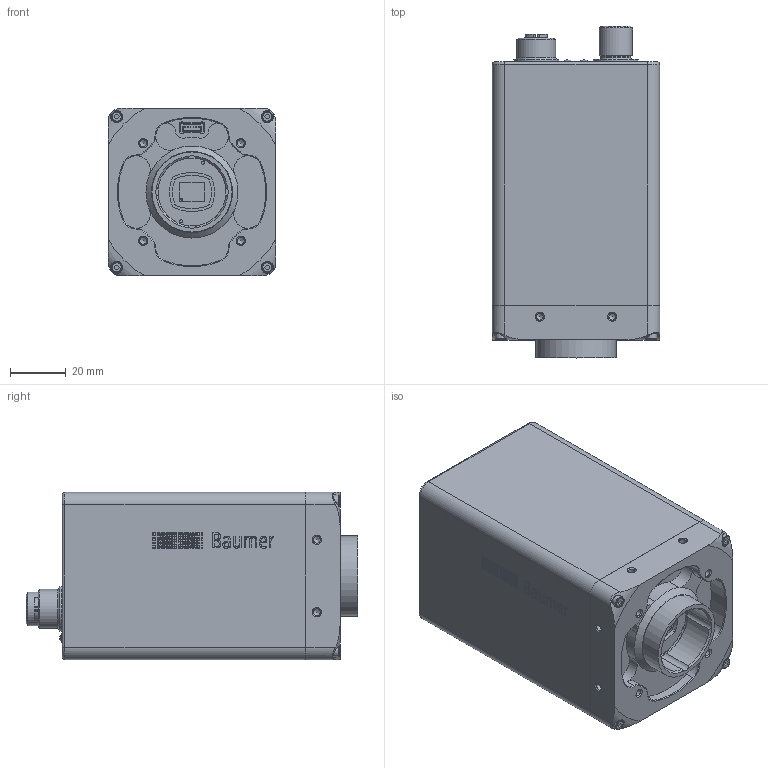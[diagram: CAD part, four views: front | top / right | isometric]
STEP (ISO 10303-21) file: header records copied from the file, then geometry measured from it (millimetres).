
FILE_DESCRIPTION( ( '11700830' ), '1' );
FILE_NAME( '11700830_VLXT-06M.I.JP.stp', '201123', ( 'uge' ), ( 'Unknown' ), 'PSStep 19.0.9', 'Unknown', ' ' );
FILE_SCHEMA( ( 'AUTOMOTIVE_DESIGN { 1 0 10303 214 1 1 1 1 }' ) );
Length unit declared in the file: millimetre
Products named in the file (1): 11192507
Bounding box: 60 x 118.97 x 60 mm (x, y, z)
Volume: 347312.7 mm3; surface area: 39575.2 mm2
Topology: 1 solids, 12 shells, 1557 faces, 3473 edges, 2278 vertices
Faces by surface type: plane 684, cylinder 649, torus 74, cone 71, extrusion 56, sphere 16, bspline 7
Full cylindrical faces by diameter (mm): 0.306 x20, 0.385 x20, 0.464 x20, 0.542 x20, 0.621 x20, 0.63 x12, 0.699 x20, 0.7 x8, 0.778 x20, 0.856 x20, 1.1 x2, 1.24 x8, 2 x4, 2.4 x4, 2.459 x28, 3.4 x2, 3.8 x4, 4.975 x2, 8 x2, 8.25 x1, 8.3 x1, 8.4 x1, 9 x1, 9.3 x2, 9.4 x2, 10.75 x1, 12 x3, 13.3 x2, 14 x1, 14.3 x2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
Entity records: 58638 total; most frequent: CARTESIAN_POINT 12534, DIRECTION 7291, ORIENTED_EDGE 5998, EDGE_CURVE 2999, AXIS2_PLACEMENT_3D 2946, EDGE_LOOP 2277, VERTEX_POINT 2193, FACE_OUTER_BOUND 1860
